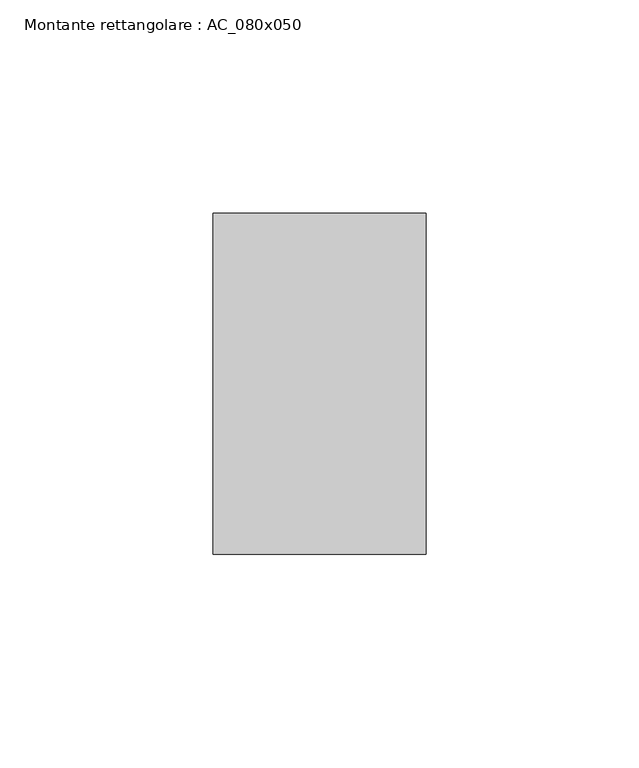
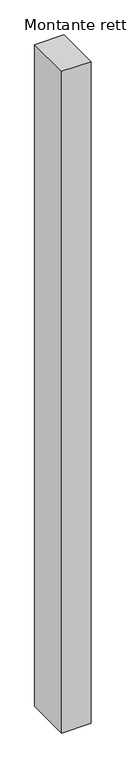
"""IFC4 building model written with IfcOpenShell, lengths in millimetres: member geometry, Montante rettangolare : AC_080x050."""

from ifc_helpers import new_model, si_unit, frame, origin, place, context, project, spatial, polyline, outline, extrude, source, transform, mapped, element, save


def montante_rettangolare_ac_080x050_ac485b46(model_context):
    return source(origin(), model_context, "Body", "SweptSolid", [
        extrude(outline(polyline([(0.0, 40.0), (0.0, -40.0), (-50.0, -40.0), (-50.0, 40.0), (0.0, 40.0)])), frame((0.0, 0.0, -1195.0), z_axis=(0.0, 0.0, 1.0), x_axis=(1.0, 0.0, 0.0)), (0.0, 0.0, 1.0), 1195.0),
    ])


if __name__ == "__main__":
    model = new_model("IFC4")
    model_context = context("Model", 3, world=origin())
    ifc_project = project(units=[si_unit("LENGTHUNIT", "METRE", prefix="MILLI")], contexts=[model_context])
    site = spatial("IfcSite", under=ifc_project)
    building = spatial("IfcBuilding", under=site)
    placement = place(None, origin())
    montante_rettangolare_ac_080x050_shape = montante_rettangolare_ac_080x050_ac485b46(model_context)
    element("IfcMember", 1, ObjectType="Montante rettangolare : AC_080x050", at=placement, inside=building, context=model_context, shape_type="MappedRepresentation", body=[
        mapped(montante_rettangolare_ac_080x050_shape, transform((0.0, 0.0, 0.0), x_axis=(1.0, 0.0, 0.0), y_axis=(0.0, 1.0, 0.0), z_axis=(0.0, 0.0, 1.0))),
    ])
    save(model, "model.ifc")
